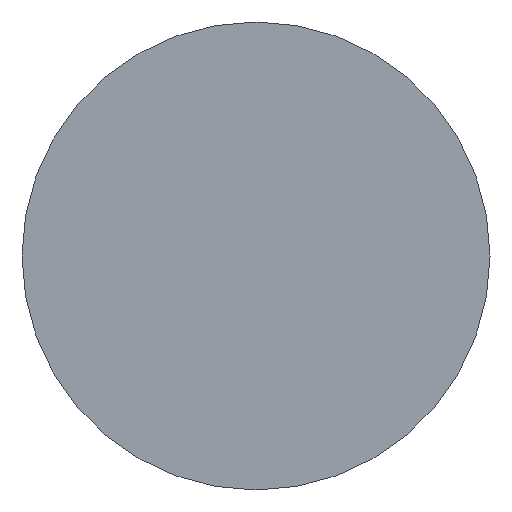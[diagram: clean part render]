
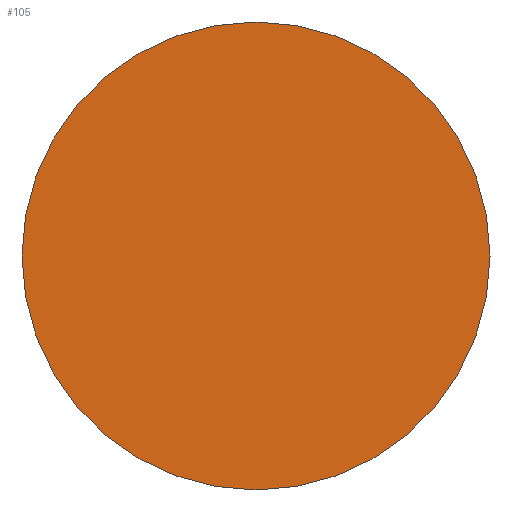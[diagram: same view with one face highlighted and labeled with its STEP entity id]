
A CAD part, front view. The second image highlights one B-rep face of the part: STEP entity #105.
In plain terms, the highlighted planar face has unit normal (0, -1, 0).
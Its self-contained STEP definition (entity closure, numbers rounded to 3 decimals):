
#22 = VERTEX_POINT('',#23);
#23 = CARTESIAN_POINT('',(51.979,83.2,-256.171));
#32 = CYLINDRICAL_SURFACE('',#33,2.95);
#33 = AXIS2_PLACEMENT_3D('',#34,#35,#36);
#34 = CARTESIAN_POINT('',(49.029,83.2,-256.171));
#35 = DIRECTION('',(0.,-1.,-0.));
#36 = DIRECTION('',(1.,0.,0.));
#79 = EDGE_CURVE('',#22,#22,#80,.T.);
#80 = SURFACE_CURVE('',#81,(#86,#93),.PCURVE_S1.);
#81 = CIRCLE('',#82,2.95);
#82 = AXIS2_PLACEMENT_3D('',#83,#84,#85);
#83 = CARTESIAN_POINT('',(49.029,83.2,-256.171));
#84 = DIRECTION('',(-0.,1.,0.));
#85 = DIRECTION('',(1.,0.,0.));
#86 = PCURVE('',#32,#87);
#87 = DEFINITIONAL_REPRESENTATION('',(#88),#92);
#88 = LINE('',#89,#90);
#89 = CARTESIAN_POINT('',(-0.,0.));
#90 = VECTOR('',#91,1.);
#91 = DIRECTION('',(-1.,0.));
#92 = ( GEOMETRIC_REPRESENTATION_CONTEXT(2) 
PARAMETRIC_REPRESENTATION_CONTEXT() REPRESENTATION_CONTEXT('2D SPACE',''
  ) );
#93 = PCURVE('',#94,#99);
#94 = PLANE('',#95);
#95 = AXIS2_PLACEMENT_3D('',#96,#97,#98);
#96 = CARTESIAN_POINT('',(49.029,83.2,-256.171));
#97 = DIRECTION('',(0.,1.,0.));
#98 = DIRECTION('',(0.,-0.,1.));
#99 = DEFINITIONAL_REPRESENTATION('',(#100),#104);
#100 = CIRCLE('',#101,2.95);
#101 = AXIS2_PLACEMENT_2D('',#102,#103);
#102 = CARTESIAN_POINT('',(0.,0.));
#103 = DIRECTION('',(0.,1.));
#104 = ( GEOMETRIC_REPRESENTATION_CONTEXT(2) 
PARAMETRIC_REPRESENTATION_CONTEXT() REPRESENTATION_CONTEXT('2D SPACE',''
  ) );
#105 = ADVANCED_FACE('',(#106),#94,.F.);
#106 = FACE_BOUND('',#107,.F.);
#107 = EDGE_LOOP('',(#108));
#108 = ORIENTED_EDGE('',*,*,#79,.T.);
